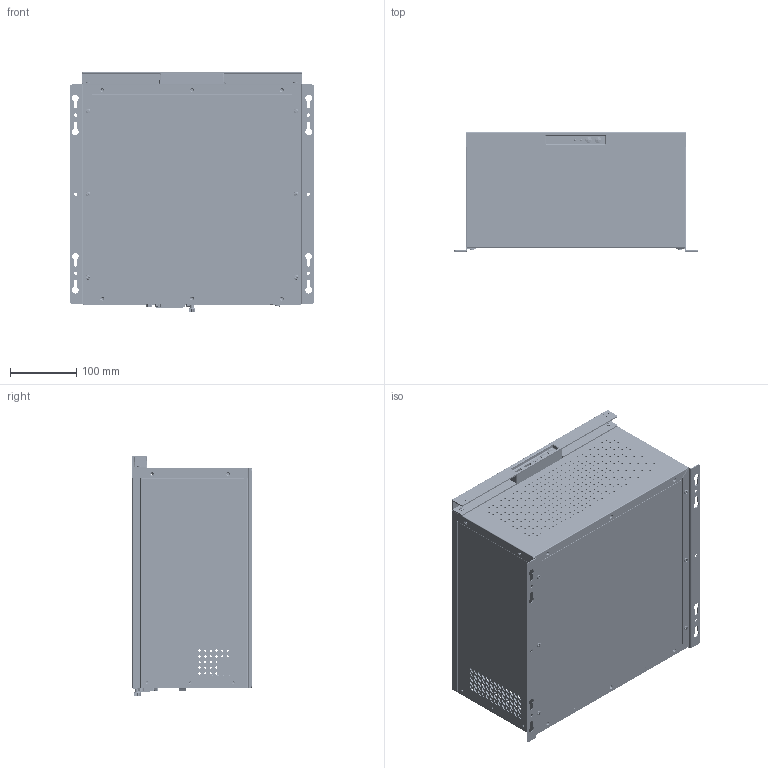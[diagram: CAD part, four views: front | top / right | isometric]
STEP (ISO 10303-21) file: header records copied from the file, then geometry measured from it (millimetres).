
FILE_DESCRIPTION((''),'2;1');
FILE_NAME('IPC-750_ASM20241008_ASM','2025-01-09T11:39:15',('Administrator'),(''),'CREO PARAMETRIC BY PTC INC, 2017110','CREO PARAMETRIC BY PTC INC, 2017110','');
FILE_SCHEMA(('CONFIG_CONTROL_DESIGN','SHAPE_APPEARANCE_LAYERS_GROUPS'));
Products named in the file (1): IPC-750_ASM20241008_ASM
Bounding box: 368 x 179.5 x 361.5 mm (x, y, z)
Surface area: 1594573.4 mm2 (no closed solid volume)
Topology: 0 solids, 163 shells, 32753 faces, 91493 edges, 58311 vertices
Faces by surface type: plane 21573, cylinder 7957, bspline 1372, torus 1260, cone 401, sphere 170, extrusion 20
Entity records: 1233505 total; most frequent: CARTESIAN_POINT 314773, ORIENTED_EDGE 182360, DIRECTION 163423, EDGE_CURVE 91180, VECTOR 66023, LINE 66003, VERTEX_POINT 58275, AXIS2_PLACEMENT_3D 48700
